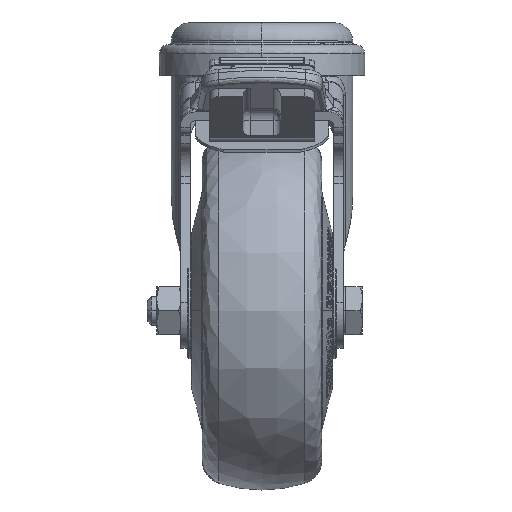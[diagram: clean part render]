
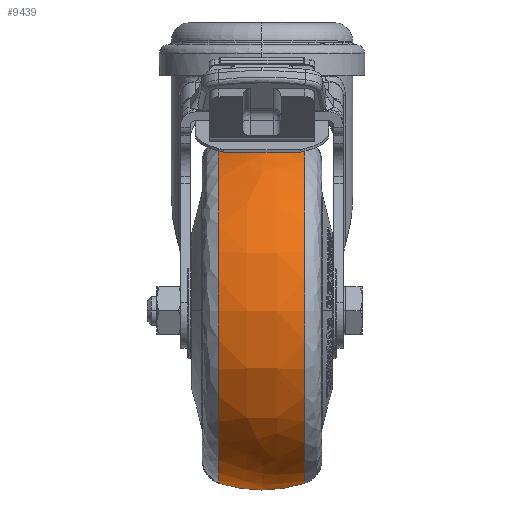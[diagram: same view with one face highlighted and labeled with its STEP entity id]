
A CAD part, top view. The second image highlights one B-rep face of the part: STEP entity #9439.
In plain terms, the highlighted free-form (B-spline) face has degree [3, 3] with [4, 4] control points.
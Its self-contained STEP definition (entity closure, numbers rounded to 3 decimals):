
#1827 = AXIS2_PLACEMENT_3D ( 'NONE', #99434, #61215, #60438 ) ;
#5063 = CIRCLE ( 'NONE', #75009, 36.118 ) ;
#6808 = CARTESIAN_POINT ( 'NONE',  ( -9., -24.382, 29. ) ) ;
#9439 = ADVANCED_FACE ( 'NONE', ( #159559 ), #53798, .T. ) ;
#15278 = CARTESIAN_POINT ( 'NONE',  ( 0., -68., 29. ) ) ;
#15401 = VERTEX_POINT ( 'NONE', #6808 ) ;
#16472 = CARTESIAN_POINT ( 'NONE',  ( -9., -24.382, 29. ) ) ;
#17224 = EDGE_CURVE ( 'NONE', #80372, #63755, #5063, .T. ) ;
#20034 = CIRCLE ( 'NONE', #108316, 30. ) ;
#28646 = CARTESIAN_POINT ( 'NONE',  ( -9., -96.618, 29. ) ) ;
#29468 = CARTESIAN_POINT ( 'NONE',  ( -3.095, -98.475, 29. ) ) ;
#32331 = EDGE_CURVE ( 'NONE', #63755, #15401, #20034, .T. ) ;
#37639 = CARTESIAN_POINT ( 'NONE',  ( 3.095, -98.475, 104.95 ) ) ;
#41936 = CARTESIAN_POINT ( 'NONE',  ( 9., -60.5, 29. ) ) ;
#43364 = CARTESIAN_POINT ( 'NONE',  ( 9., -96.618, 29. ) ) ;
#47836 = EDGE_CURVE ( 'NONE', #15401, #127663, #64022, .T. ) ;
#48998 = CARTESIAN_POINT ( 'NONE',  ( 9., -24.382, 101.236 ) ) ;
#51789 = DIRECTION ( 'NONE',  ( 0., -1., 0. ) ) ;
#53798 =( BOUNDED_SURFACE ( )  B_SPLINE_SURFACE ( 3, 3, ( 
 ( #149000, #48998, #136765, #98604 ),
 ( #71744, #148218, #37639, #135981 ),
 ( #87137, #74940, #83947, #29468 ),
 ( #16472, #150581, #137566, #28646 ) ),
 .UNSPECIFIED., .F., .F., .F. ) 
 B_SPLINE_SURFACE_WITH_KNOTS ( ( 4, 4 ),
 ( 4, 4 ),
 ( 0., 1. ),
 ( 0., 1. ),
 .UNSPECIFIED. ) 
 GEOMETRIC_REPRESENTATION_ITEM ( )  RATIONAL_B_SPLINE_SURFACE ( (
 ( 1., 0.333, 0.333, 1.),
 ( 0.969, 0.323, 0.323, 0.969),
 ( 0.969, 0.323, 0.323, 0.969),
 ( 1., 0.333, 0.333, 1.) ) ) 
 REPRESENTATION_ITEM ( '' )  SURFACE ( )  );
#57768 = CARTESIAN_POINT ( 'NONE',  ( 9., -24.382, 29. ) ) ;
#60438 = DIRECTION ( 'NONE',  ( 0., -1., 0. ) ) ;
#61215 = DIRECTION ( 'NONE',  ( 1., 0., 0. ) ) ;
#63755 = VERTEX_POINT ( 'NONE', #57768 ) ;
#64022 = CIRCLE ( 'NONE', #1827, 36.118 ) ;
#71744 = CARTESIAN_POINT ( 'NONE',  ( 3.095, -22.525, 29. ) ) ;
#73186 = ORIENTED_EDGE ( 'NONE', *, *, #156624, .F. ) ;
#74940 = CARTESIAN_POINT ( 'NONE',  ( -3.095, -22.525, 104.95 ) ) ;
#75009 = AXIS2_PLACEMENT_3D ( 'NONE', #41936, #115098, #140321 ) ;
#79758 = ORIENTED_EDGE ( 'NONE', *, *, #32331, .T. ) ;
#80372 = VERTEX_POINT ( 'NONE', #43364 ) ;
#83947 = CARTESIAN_POINT ( 'NONE',  ( -3.095, -98.475, 104.95 ) ) ;
#87137 = CARTESIAN_POINT ( 'NONE',  ( -3.095, -22.525, 29. ) ) ;
#92663 = AXIS2_PLACEMENT_3D ( 'NONE', #15278, #103814, #51789 ) ;
#97897 = CIRCLE ( 'NONE', #92663, 30. ) ;
#98604 = CARTESIAN_POINT ( 'NONE',  ( 9., -96.618, 29. ) ) ;
#99333 = CARTESIAN_POINT ( 'NONE',  ( 0., -53., 29. ) ) ;
#99434 = CARTESIAN_POINT ( 'NONE',  ( -9., -60.5, 29. ) ) ;
#103814 = DIRECTION ( 'NONE',  ( 0., 0., -1. ) ) ;
#108316 = AXIS2_PLACEMENT_3D ( 'NONE', #99333, #138304, #148930 ) ;
#110337 = EDGE_LOOP ( 'NONE', ( #139775, #79758, #129677, #73186 ) ) ;
#115098 = DIRECTION ( 'NONE',  ( -1., 0., 0. ) ) ;
#127663 = VERTEX_POINT ( 'NONE', #139565 ) ;
#129677 = ORIENTED_EDGE ( 'NONE', *, *, #47836, .T. ) ;
#135981 = CARTESIAN_POINT ( 'NONE',  ( 3.095, -98.475, 29. ) ) ;
#136765 = CARTESIAN_POINT ( 'NONE',  ( 9., -96.618, 101.236 ) ) ;
#137566 = CARTESIAN_POINT ( 'NONE',  ( -9., -96.618, 101.236 ) ) ;
#138304 = DIRECTION ( 'NONE',  ( 0., 0., 1. ) ) ;
#139565 = CARTESIAN_POINT ( 'NONE',  ( -9., -96.618, 29. ) ) ;
#139775 = ORIENTED_EDGE ( 'NONE', *, *, #17224, .T. ) ;
#140321 = DIRECTION ( 'NONE',  ( 0., -1., 0. ) ) ;
#148218 = CARTESIAN_POINT ( 'NONE',  ( 3.095, -22.525, 104.95 ) ) ;
#148930 = DIRECTION ( 'NONE',  ( 0., 1., 0. ) ) ;
#149000 = CARTESIAN_POINT ( 'NONE',  ( 9., -24.382, 29. ) ) ;
#150581 = CARTESIAN_POINT ( 'NONE',  ( -9., -24.382, 101.236 ) ) ;
#156624 = EDGE_CURVE ( 'NONE', #80372, #127663, #97897, .T. ) ;
#159559 = FACE_OUTER_BOUND ( 'NONE', #110337, .T. ) ;
